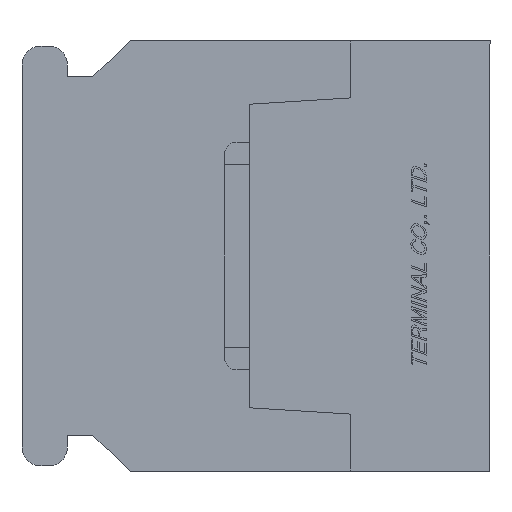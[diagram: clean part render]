
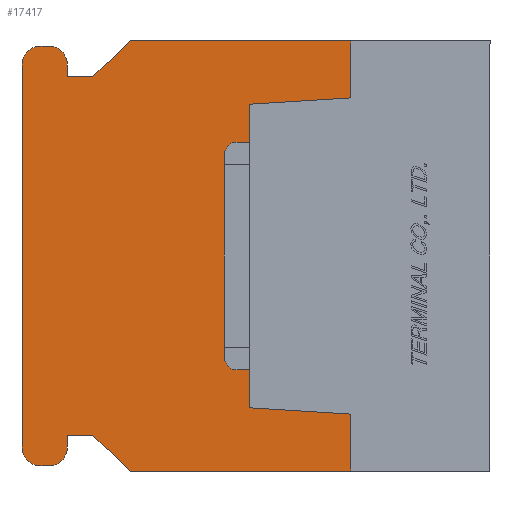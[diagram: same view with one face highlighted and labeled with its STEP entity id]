
A CAD part, left-side view. The second image highlights one B-rep face of the part: STEP entity #17417.
In plain terms, the highlighted planar face has unit normal (-1, 0, 0).
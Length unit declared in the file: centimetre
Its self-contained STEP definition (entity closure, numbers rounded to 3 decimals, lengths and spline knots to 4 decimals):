
#2050=VECTOR('',#21805,1.);
#2053=VECTOR('',#21809,1.);
#2055=VECTOR('',#21812,1.);
#2057=VECTOR('',#21815,1.);
#2059=VECTOR('',#21818,1.);
#2111=VECTOR('',#21911,1.);
#2113=VECTOR('',#21914,1.);
#2115=VECTOR('',#21917,1.);
#2117=VECTOR('',#21920,1.);
#2120=VECTOR('',#21928,1.);
#2123=VECTOR('',#21936,1.);
#2126=VECTOR('',#21944,1.);
#2129=VECTOR('',#21952,1.);
#2131=VECTOR('',#21955,1.);
#2133=VECTOR('',#21958,1.);
#2134=VECTOR('',#21960,1.);
#3886=LINE('',#27145,#2050);
#3889=LINE('',#27151,#2053);
#3891=LINE('',#27155,#2055);
#3893=LINE('',#27159,#2057);
#3895=LINE('',#27163,#2059);
#3947=LINE('',#27283,#2111);
#3949=LINE('',#27287,#2113);
#3951=LINE('',#27291,#2115);
#3953=LINE('',#27295,#2117);
#3956=LINE('',#27303,#2120);
#3959=LINE('',#27311,#2123);
#3962=LINE('',#27319,#2126);
#3965=LINE('',#27327,#2129);
#3967=LINE('',#27331,#2131);
#3969=LINE('',#27335,#2133);
#3970=LINE('',#27337,#2134);
#4904=PLANE('',#18724);
#6334=VERTEX_POINT('',#27144);
#6335=VERTEX_POINT('',#27146);
#6336=VERTEX_POINT('',#27150);
#6337=VERTEX_POINT('',#27154);
#6338=VERTEX_POINT('',#27158);
#6339=VERTEX_POINT('',#27162);
#6376=VERTEX_POINT('',#27282);
#6377=VERTEX_POINT('',#27286);
#6378=VERTEX_POINT('',#27290);
#6379=VERTEX_POINT('',#27294);
#6380=VERTEX_POINT('',#27298);
#6381=VERTEX_POINT('',#27302);
#6382=VERTEX_POINT('',#27306);
#6383=VERTEX_POINT('',#27310);
#6384=VERTEX_POINT('',#27314);
#6385=VERTEX_POINT('',#27318);
#6386=VERTEX_POINT('',#27322);
#6387=VERTEX_POINT('',#27326);
#6388=VERTEX_POINT('',#27330);
#6389=VERTEX_POINT('',#27334);
#7039=CIRCLE('',#18710,0.075);
#7040=CIRCLE('',#18713,0.075);
#7041=CIRCLE('',#18716,0.075);
#7042=CIRCLE('',#18719,0.075);
#8971=EDGE_CURVE('',#6335,#6334,#3886,.T.);
#8974=EDGE_CURVE('',#6334,#6336,#3889,.T.);
#8976=EDGE_CURVE('',#6336,#6337,#3891,.T.);
#8978=EDGE_CURVE('',#6337,#6338,#3893,.T.);
#8980=EDGE_CURVE('',#6338,#6339,#3895,.T.);
#9040=EDGE_CURVE('',#6376,#6339,#3947,.T.);
#9042=EDGE_CURVE('',#6377,#6376,#3949,.T.);
#9044=EDGE_CURVE('',#6378,#6377,#3951,.T.);
#9046=EDGE_CURVE('',#6379,#6378,#3953,.T.);
#9048=EDGE_CURVE('',#6380,#6379,#7039,.T.);
#9050=EDGE_CURVE('',#6381,#6380,#3956,.T.);
#9052=EDGE_CURVE('',#6382,#6381,#7040,.T.);
#9054=EDGE_CURVE('',#6383,#6382,#3959,.T.);
#9056=EDGE_CURVE('',#6384,#6383,#7041,.T.);
#9058=EDGE_CURVE('',#6385,#6384,#3962,.T.);
#9060=EDGE_CURVE('',#6386,#6385,#7042,.T.);
#9062=EDGE_CURVE('',#6387,#6386,#3965,.T.);
#9064=EDGE_CURVE('',#6388,#6387,#3967,.T.);
#9066=EDGE_CURVE('',#6389,#6388,#3969,.T.);
#9067=EDGE_CURVE('',#6335,#6389,#3970,.T.);
#13587=ORIENTED_EDGE('',*,*,#8980,.T.);
#13588=ORIENTED_EDGE('',*,*,#9040,.F.);
#13589=ORIENTED_EDGE('',*,*,#9042,.F.);
#13590=ORIENTED_EDGE('',*,*,#9044,.F.);
#13591=ORIENTED_EDGE('',*,*,#9046,.F.);
#13592=ORIENTED_EDGE('',*,*,#9048,.F.);
#13593=ORIENTED_EDGE('',*,*,#9050,.F.);
#13594=ORIENTED_EDGE('',*,*,#9052,.F.);
#13595=ORIENTED_EDGE('',*,*,#9054,.F.);
#13596=ORIENTED_EDGE('',*,*,#9056,.F.);
#13597=ORIENTED_EDGE('',*,*,#9058,.F.);
#13598=ORIENTED_EDGE('',*,*,#9060,.F.);
#13599=ORIENTED_EDGE('',*,*,#9062,.F.);
#13600=ORIENTED_EDGE('',*,*,#9064,.F.);
#13601=ORIENTED_EDGE('',*,*,#9066,.F.);
#13602=ORIENTED_EDGE('',*,*,#9067,.F.);
#13603=ORIENTED_EDGE('',*,*,#8971,.T.);
#13604=ORIENTED_EDGE('',*,*,#8974,.T.);
#13605=ORIENTED_EDGE('',*,*,#8976,.T.);
#13606=ORIENTED_EDGE('',*,*,#8978,.T.);
#15425=EDGE_LOOP('',(#13587,#13588,#13589,#13590,#13591,#13592,#13593,#13594,
#13595,#13596,#13597,#13598,#13599,#13600,#13601,#13602,#13603,#13604,#13605,
#13606));
#16469=FACE_BOUND('',#15425,.T.);
#17417=ADVANCED_FACE('',(#16469),#4904,.F.);
#18710=AXIS2_PLACEMENT_3D('',#27299,#21924,#21925);
#18713=AXIS2_PLACEMENT_3D('',#27307,#21932,#21933);
#18716=AXIS2_PLACEMENT_3D('',#27315,#21940,#21941);
#18719=AXIS2_PLACEMENT_3D('',#27323,#21948,#21949);
#18724=AXIS2_PLACEMENT_3D('',#27338,#21961,$);
#21805=DIRECTION('',(0.,0.,1.));
#21809=DIRECTION('',(0.,0.998,0.062));
#21812=DIRECTION('',(0.,0.,1.));
#21815=DIRECTION('',(0.,-0.998,0.062));
#21818=DIRECTION('',(0.,0.,1.));
#21911=DIRECTION('',(0.,-1.,0.));
#21914=DIRECTION('',(0.,-0.731,0.682));
#21917=DIRECTION('',(0.,-1.,0.));
#21920=DIRECTION('',(0.,0.,-1.));
#21924=DIRECTION('',(1.,0.,0.));
#21925=DIRECTION('',(0.,0.,-0.075));
#21928=DIRECTION('',(0.,-1.,0.));
#21932=DIRECTION('',(1.,0.,0.));
#21933=DIRECTION('',(0.,0.,-0.075));
#21936=DIRECTION('',(0.,0.,1.));
#21940=DIRECTION('',(1.,0.,0.));
#21941=DIRECTION('',(0.,0.,-0.075));
#21944=DIRECTION('',(0.,1.,0.));
#21948=DIRECTION('',(1.,0.,0.));
#21949=DIRECTION('',(0.,0.,-0.075));
#21952=DIRECTION('',(0.,0.,-1.));
#21955=DIRECTION('',(0.,1.,0.));
#21958=DIRECTION('',(0.,0.731,0.682));
#21960=DIRECTION('',(0.,1.,0.));
#21961=DIRECTION('',(1.,0.,0.));
#27144=CARTESIAN_POINT('',(0.,0.55,-0.625));
#27145=CARTESIAN_POINT('',(0.,0.55,-0.3688));
#27146=CARTESIAN_POINT('',(0.,0.55,-0.85));
#27150=CARTESIAN_POINT('',(0.,0.95,-0.6));
#27151=CARTESIAN_POINT('',(0.,0.8629,-0.6054));
#27154=CARTESIAN_POINT('',(0.,0.95,0.6));
#27155=CARTESIAN_POINT('',(0.,0.95,0.));
#27158=CARTESIAN_POINT('',(0.,0.55,0.625));
#27159=CARTESIAN_POINT('',(0.,0.8629,0.6054));
#27162=CARTESIAN_POINT('',(0.,0.55,0.85));
#27163=CARTESIAN_POINT('',(0.,0.55,0.3687));
#27282=CARTESIAN_POINT('',(0.,1.42,0.85));
#27283=CARTESIAN_POINT('',(0.,1.42,0.85));
#27286=CARTESIAN_POINT('',(0.,1.57,0.71));
#27287=CARTESIAN_POINT('',(0.,1.57,0.71));
#27290=CARTESIAN_POINT('',(0.,1.67,0.71));
#27291=CARTESIAN_POINT('',(0.,1.67,0.71));
#27294=CARTESIAN_POINT('',(0.,1.67,0.755));
#27295=CARTESIAN_POINT('',(0.,1.67,0.755));
#27298=CARTESIAN_POINT('',(0.,1.745,0.83));
#27299=CARTESIAN_POINT('',(0.,1.745,0.755));
#27302=CARTESIAN_POINT('',(0.,1.775,0.83));
#27303=CARTESIAN_POINT('',(0.,1.775,0.83));
#27306=CARTESIAN_POINT('',(0.,1.85,0.755));
#27307=CARTESIAN_POINT('',(0.,1.775,0.755));
#27310=CARTESIAN_POINT('',(0.,1.85,-0.755));
#27311=CARTESIAN_POINT('',(0.,1.85,-0.755));
#27314=CARTESIAN_POINT('',(0.,1.775,-0.83));
#27315=CARTESIAN_POINT('',(0.,1.775,-0.755));
#27318=CARTESIAN_POINT('',(0.,1.745,-0.83));
#27319=CARTESIAN_POINT('',(0.,1.745,-0.83));
#27322=CARTESIAN_POINT('',(0.,1.67,-0.755));
#27323=CARTESIAN_POINT('',(0.,1.745,-0.755));
#27326=CARTESIAN_POINT('',(0.,1.67,-0.71));
#27327=CARTESIAN_POINT('',(0.,1.67,-0.71));
#27330=CARTESIAN_POINT('',(0.,1.57,-0.71));
#27331=CARTESIAN_POINT('',(0.,1.57,-0.71));
#27334=CARTESIAN_POINT('',(0.,1.42,-0.85));
#27335=CARTESIAN_POINT('',(0.,1.42,-0.85));
#27337=CARTESIAN_POINT('',(0.,0.,-0.85));
#27338=CARTESIAN_POINT('',(0.,0.9383,0.));
